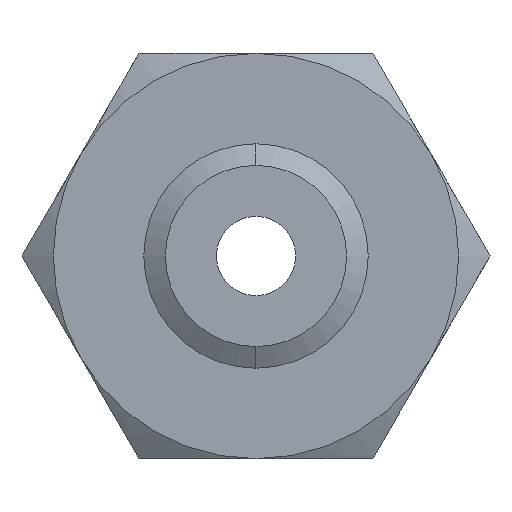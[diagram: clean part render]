
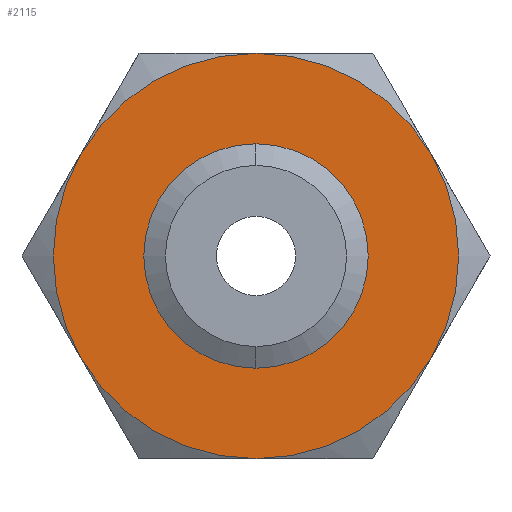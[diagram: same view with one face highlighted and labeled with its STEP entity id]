
A CAD part, front view. The second image highlights one B-rep face of the part: STEP entity #2115.
In plain terms, the highlighted planar face has unit normal (0, -1, 0).
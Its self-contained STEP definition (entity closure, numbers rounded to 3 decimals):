
#140 = EDGE_CURVE ( 'NONE', #141, #142, #469, .T. ) ;
#141 = VERTEX_POINT ( 'NONE', #464 ) ;
#142 = VERTEX_POINT ( 'NONE', #463 ) ;
#463 = CARTESIAN_POINT ( 'NONE',  ( 0., 0., 14.536 ) ) ;
#464 = CARTESIAN_POINT ( 'NONE',  ( 0., 0., -14.536 ) ) ;
#465 = DIRECTION ( 'NONE',  ( 0., 0., -1. ) ) ;
#466 = DIRECTION ( 'NONE',  ( 0., -1., 0. ) ) ;
#467 = CARTESIAN_POINT ( 'NONE',  ( 0., 0., 0. ) ) ;
#468 = AXIS2_PLACEMENT_3D ( 'NONE', #467, #466, #465 ) ;
#469 = CIRCLE ( 'NONE', #468, 14.536 ) ;
#718 = CARTESIAN_POINT ( 'NONE',  ( -28.146, 0., 16.25 ) ) ;
#733 = DIRECTION ( 'NONE',  ( 0., 0., 1. ) ) ;
#734 = DIRECTION ( 'NONE',  ( 0., 1., 0. ) ) ;
#735 = CARTESIAN_POINT ( 'NONE',  ( 0., 0., 0. ) ) ;
#736 = AXIS2_PLACEMENT_3D ( 'NONE', #735, #734, #733 ) ;
#737 = CIRCLE ( 'NONE', #736, 32.5 ) ;
#1389 = CARTESIAN_POINT ( 'NONE',  ( 28.146, 0., -16.25 ) ) ;
#1398 = AXIS2_PLACEMENT_3D ( 'NONE', #1458, #1457, #1456 ) ;
#1399 = CIRCLE ( 'NONE', #1398, 32.5 ) ;
#1400 = CARTESIAN_POINT ( 'NONE',  ( 0., 0., -32.5 ) ) ;
#1411 = CARTESIAN_POINT ( 'NONE',  ( -28.146, 0., -16.25 ) ) ;
#1412 = DIRECTION ( 'NONE',  ( 0., 0., 1. ) ) ;
#1413 = DIRECTION ( 'NONE',  ( 0., 1., 0. ) ) ;
#1414 = CARTESIAN_POINT ( 'NONE',  ( 0., 0., 0. ) ) ;
#1415 = AXIS2_PLACEMENT_3D ( 'NONE', #1414, #1413, #1412 ) ;
#1416 = CIRCLE ( 'NONE', #1415, 32.5 ) ;
#1417 = DIRECTION ( 'NONE',  ( 0., 0., 1. ) ) ;
#1418 = DIRECTION ( 'NONE',  ( 0., 1., 0. ) ) ;
#1419 = CARTESIAN_POINT ( 'NONE',  ( 0., 0., 0. ) ) ;
#1420 = AXIS2_PLACEMENT_3D ( 'NONE', #1419, #1418, #1417 ) ;
#1421 = CIRCLE ( 'NONE', #1420, 32.5 ) ;
#1422 = CARTESIAN_POINT ( 'NONE',  ( 28.146, 0., 16.25 ) ) ;
#1440 = CARTESIAN_POINT ( 'NONE',  ( 0., 0., 32.5 ) ) ;
#1446 = DIRECTION ( 'NONE',  ( 0., 0., -1. ) ) ;
#1447 = DIRECTION ( 'NONE',  ( 0., -1., 0. ) ) ;
#1448 = CARTESIAN_POINT ( 'NONE',  ( 0., 0., 0. ) ) ;
#1449 = AXIS2_PLACEMENT_3D ( 'NONE', #1448, #1447, #1446 ) ;
#1450 = CIRCLE ( 'NONE', #1449, 14.536 ) ;
#1451 = DIRECTION ( 'NONE',  ( 0., 0., 1. ) ) ;
#1452 = DIRECTION ( 'NONE',  ( 0., 1., 0. ) ) ;
#1453 = CARTESIAN_POINT ( 'NONE',  ( 0., 0., 0. ) ) ;
#1454 = AXIS2_PLACEMENT_3D ( 'NONE', #1453, #1452, #1451 ) ;
#1455 = CIRCLE ( 'NONE', #1454, 32.5 ) ;
#1456 = DIRECTION ( 'NONE',  ( 0., 0., 1. ) ) ;
#1457 = DIRECTION ( 'NONE',  ( 0., 1., 0. ) ) ;
#1458 = CARTESIAN_POINT ( 'NONE',  ( 0., 0., 0. ) ) ;
#1463 = DIRECTION ( 'NONE',  ( 0., 0., 1. ) ) ;
#1464 = DIRECTION ( 'NONE',  ( 0., 1., 0. ) ) ;
#1465 = CARTESIAN_POINT ( 'NONE',  ( 18.764, 0., -32.5 ) ) ;
#1466 = AXIS2_PLACEMENT_3D ( 'NONE', #1465, #1464, #1463 ) ;
#1467 = PLANE ( 'NONE',  #1466 ) ;
#1468 = FACE_BOUND ( 'NONE', #2062, .T. ) ;
#1469 = FACE_OUTER_BOUND ( 'NONE', #2116, .T. ) ;
#1489 = DIRECTION ( 'NONE',  ( 0., 0., 1. ) ) ;
#1490 = DIRECTION ( 'NONE',  ( 0., 1., 0. ) ) ;
#1491 = CARTESIAN_POINT ( 'NONE',  ( 0., 0., 0. ) ) ;
#1492 = AXIS2_PLACEMENT_3D ( 'NONE', #1491, #1490, #1489 ) ;
#1493 = CIRCLE ( 'NONE', #1492, 32.5 ) ;
#1726 = EDGE_CURVE ( 'NONE', #1742, #2100, #737, .T. ) ;
#1729 = ORIENTED_EDGE ( 'NONE', *, *, #1726, .F. ) ;
#1742 = VERTEX_POINT ( 'NONE', #718 ) ;
#2061 = VERTEX_POINT ( 'NONE', #1389 ) ;
#2062 = EDGE_LOOP ( 'NONE', ( #2085, #2084 ) ) ;
#2063 = ORIENTED_EDGE ( 'NONE', *, *, #2082, .F. ) ;
#2065 = ORIENTED_EDGE ( 'NONE', *, *, #2092, .F. ) ;
#2070 = ORIENTED_EDGE ( 'NONE', *, *, #2083, .F. ) ;
#2076 = ORIENTED_EDGE ( 'NONE', *, *, #2089, .F. ) ;
#2081 = VERTEX_POINT ( 'NONE', #1422 ) ;
#2082 = EDGE_CURVE ( 'NONE', #2081, #2061, #1421, .T. ) ;
#2083 = EDGE_CURVE ( 'NONE', #2087, #1742, #1416, .T. ) ;
#2084 = ORIENTED_EDGE ( 'NONE', *, *, #2093, .F. ) ;
#2085 = ORIENTED_EDGE ( 'NONE', *, *, #140, .F. ) ;
#2087 = VERTEX_POINT ( 'NONE', #1411 ) ;
#2089 = EDGE_CURVE ( 'NONE', #2091, #2087, #1399, .T. ) ;
#2091 = VERTEX_POINT ( 'NONE', #1400 ) ;
#2092 = EDGE_CURVE ( 'NONE', #2061, #2091, #1455, .T. ) ;
#2093 = EDGE_CURVE ( 'NONE', #142, #141, #1450, .T. ) ;
#2100 = VERTEX_POINT ( 'NONE', #1440 ) ;
#2104 = EDGE_CURVE ( 'NONE', #2100, #2081, #1493, .T. ) ;
#2115 = ADVANCED_FACE ( 'NONE', ( #1469, #1468 ), #1467, .F. ) ;
#2116 = EDGE_LOOP ( 'NONE', ( #2118, #1729, #2070, #2076, #2065, #2063 ) ) ;
#2118 = ORIENTED_EDGE ( 'NONE', *, *, #2104, .F. ) ;
